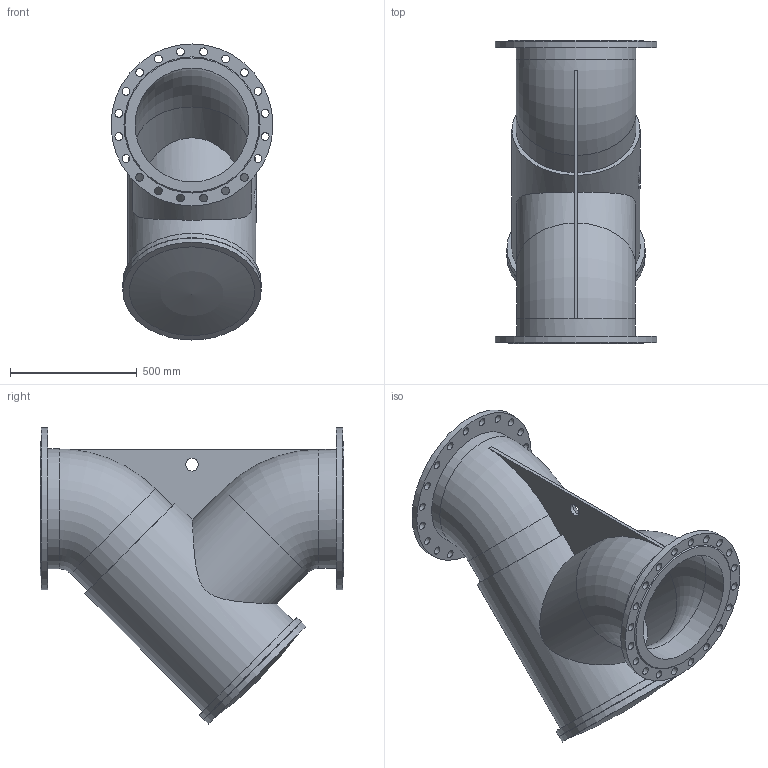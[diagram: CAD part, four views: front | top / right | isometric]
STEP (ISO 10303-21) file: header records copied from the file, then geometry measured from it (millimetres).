
FILE_DESCRIPTION(('STEP AP203'), '1');
FILE_NAME('Ôèëüòð ñåò÷àòûé ôëàíöåâûé 021Y.Z DN450 PN16', '', ('UNSPECIFIED'), ('UNSPECIFIED'), 'ASCON STEP Converter 1.6', 'ASCON Math Kernel', '');
FILE_SCHEMA(('CONFIG_CONTROL_DESIGN'));
Length unit declared in the file: millimetre
Bounding box: 640 x 1200 x 1170 mm (x, y, z)
Volume: 169968762.6 mm3; surface area: 5289382.6 mm2
Topology: 1 solids, 1 shells, 97 faces, 240 edges, 157 vertices
Faces by surface type: cylinder 63, plane 27, torus 4, cone 2, sphere 1
Full cylindrical faces by diameter (mm): 31 x40, 50 x1, 450 x4, 470 x1, 474 x1, 506 x1, 534 x1, 546 x2, 640 x2
Entity records: 4736 total; most frequent: CARTESIAN_POINT 1590, DIRECTION 493, ORIENTED_EDGE 360, EDGE_LOOP 250, AXIS2_PLACEMENT_3D 228, EDGE_CURVE 180, VERTEX_POINT 156, FACE_BOUND 136
